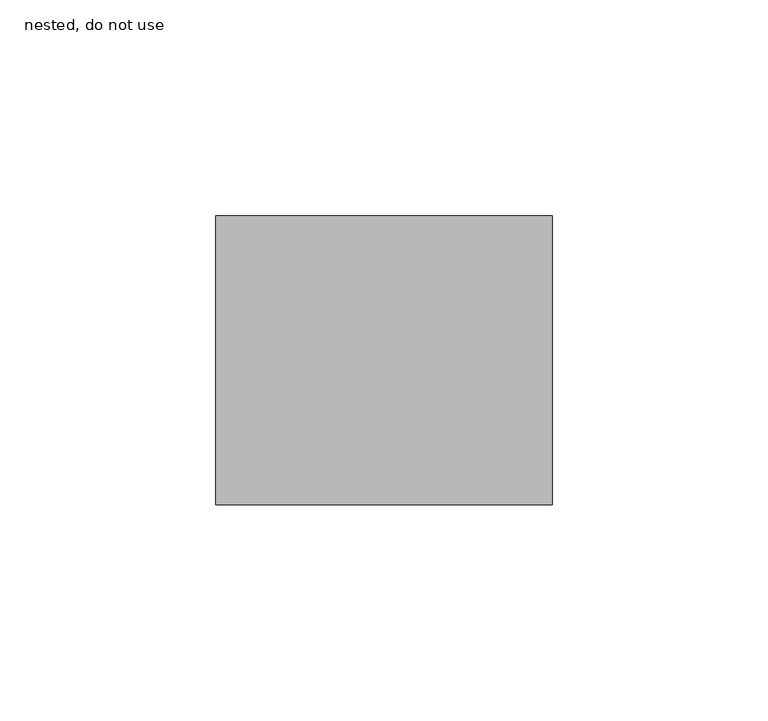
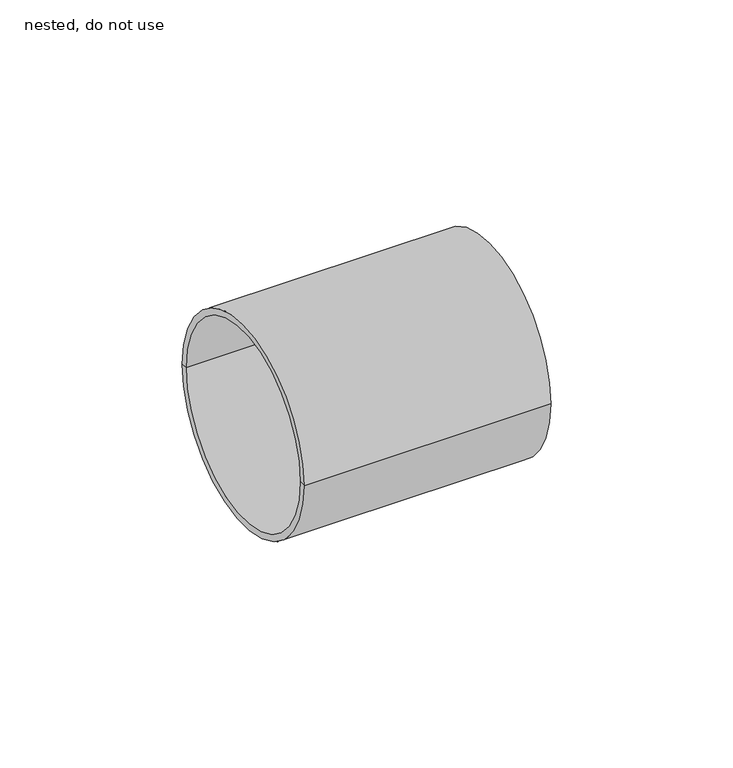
"""IFC4 building model written with IfcOpenShell, lengths in millimetres: pipe fitting geometry, NLRS_52_PIF_UN_Vacurain Flex steekmof_SH_Dyka : nested, do not use."""

from ifc_helpers import new_model, si_unit, frame, origin, place, context, project, spatial, polyline, circle_curve, source, transform, mapped, element, save
from ifc_brep_helpers import plane_surface, cylinder_surface, revolved_surface, advanced_brep


def nested_do_not_use_faedce5e(model_context):
    return source(origin(), model_context, "Body", "AdvancedBrep", [
        advanced_brep(
        [(39.0, -33.5, 0.0), (39.0, 33.5, 0.0), (39.0, 31.5, 0.0), (39.0, -31.5, 0.0), (-39.0, -33.5, 0.0), (-39.0, 33.5, 0.0), (-39.0, -31.5, 0.0), (-39.0, 31.5, 0.0), (-1.0, -31.5, 0.0), (-1.0, 31.5, 0.0), (-1.0, 0.0, 0.0), (1.0, -31.5, 0.0), (1.0, 31.5, 0.0), (1.0, 0.0, 0.0)],
        [
            (0, 1, circle_curve(frame((39.0, 0.0, 0.0), z_axis=(1.0, 0.0, 0.0), x_axis=(0.0, 1.0, 0.0)), 33.5)),
            (1, 2),
            (2, 3, circle_curve(frame((39.0, 0.0, 0.0), z_axis=(-1.0, 0.0, 0.0), x_axis=(0.0, 1.0, 0.0)), 31.5)),
            (3, 0),
            (1, 0, circle_curve(frame((39.0, 0.0, 0.0), z_axis=(1.0, 0.0, 0.0), x_axis=(0.0, 1.0, 0.0)), 33.5)),
            (3, 2, circle_curve(frame((39.0, 0.0, 0.0), z_axis=(-1.0, 0.0, 0.0), x_axis=(0.0, 1.0, 0.0)), 31.5)),
            (4, 5, circle_curve(frame((-39.0, 0.0, 0.0), z_axis=(1.0, 0.0, 0.0), x_axis=(0.0, 1.0, 0.0)), 33.5)),
            (5, 1),
            (0, 4),
            (5, 4, circle_curve(frame((-39.0, 0.0, 0.0), z_axis=(1.0, 0.0, 0.0), x_axis=(0.0, 1.0, 0.0)), 33.5)),
            (6, 7, circle_curve(frame((-39.0, 0.0, 0.0), z_axis=(1.0, 0.0, 0.0), x_axis=(0.0, 1.0, 0.0)), 31.5)),
            (7, 5),
            (4, 6),
            (7, 6, circle_curve(frame((-39.0, 0.0, 0.0), z_axis=(1.0, 0.0, 0.0), x_axis=(0.0, 1.0, 0.0)), 31.5)),
            (8, 9, circle_curve(frame((-1.0, 0.0, 0.0), z_axis=(1.0, 0.0, 0.0), x_axis=(0.0, 1.0, 0.0)), 31.5)),
            (9, 7),
            (6, 8),
            (9, 8, circle_curve(frame((-1.0, 0.0, 0.0), z_axis=(1.0, 0.0, 0.0), x_axis=(0.0, 1.0, 0.0)), 31.5)),
            (10, 9),
            (8, 10),
            (11, 12, circle_curve(frame((1.0, 0.0, 0.0), z_axis=(1.0, 0.0, 0.0), x_axis=(0.0, 1.0, 0.0)), 31.5)),
            (12, 13),
            (13, 11),
            (12, 11, circle_curve(frame((1.0, 0.0, 0.0), z_axis=(1.0, 0.0, 0.0), x_axis=(0.0, 1.0, 0.0)), 31.5)),
            (2, 12),
            (11, 3),
        ],
        [
            plane_surface(frame((39.0, 0.0, 0.0), z_axis=(1.0, 0.0, 0.0), x_axis=(0.0, 1.0, 0.0))),
            cylinder_surface(frame((-45.9, 0.0, 0.0), z_axis=(-1.0, 0.0, 0.0), x_axis=(0.0, 1.0, 0.0)), 33.5),
            plane_surface(frame((-39.0, 0.0, 0.0), z_axis=(-1.0, 0.0, 0.0), x_axis=(0.0, 1.0, 0.0))),
            revolved_surface(polyline([(-39.0, 31.5, 0.0), (-1.0, 31.5, 0.0)]), (-45.9, 0.0, 0.0), (-1.0, 0.0, 0.0)),
            plane_surface(frame((-1.0, 0.0, 0.0), z_axis=(-1.0, 0.0, 0.0), x_axis=(0.0, 1.0, 0.0))),
            plane_surface(frame((1.0, 0.0, 0.0), z_axis=(1.0, 0.0, 0.0), x_axis=(0.0, 1.0, 0.0))),
            revolved_surface(polyline([(1.0, 31.5, 0.0), (39.00000000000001, 31.5, 0.0)]), (-45.9, 0.0, 0.0), (-1.0, 0.0, 0.0)),
        ],
        [
            (0, [[1, 2, 3, 4]]),
            (0, [[5, -4, 6, -2]]),
            (1, [[7, 8, -1, 9]]),
            (1, [[10, -9, -5, -8]]),
            (2, [[11, 12, -7, 13]]),
            (2, [[14, -13, -10, -12]]),
            (3, [[15, 16, -11, 17]]),
            (3, [[18, -17, -14, -16]]),
            (4, [[19, -15, 20]]),
            (4, [[-20, -18, -19]]),
            (5, [[21, 22, 23]]),
            (5, [[24, -23, -22]]),
            (6, [[-3, 25, -21, 26]]),
            (6, [[-6, -26, -24, -25]]),
        ],
    ),
    ])


if __name__ == "__main__":
    model = new_model("IFC4")
    model_context = context("Model", 3, world=origin())
    ifc_project = project(units=[si_unit("LENGTHUNIT", "METRE", prefix="MILLI")], contexts=[model_context])
    site = spatial("IfcSite", under=ifc_project)
    building = spatial("IfcBuilding", under=site)
    placement = place(None, origin())
    nested_do_not_use_shape = nested_do_not_use_faedce5e(model_context)
    element("IfcPipeFitting", 1, ObjectType="NLRS_52_PIF_UN_Vacurain Flex steekmof_SH_Dyka : nested, do not use", at=placement, inside=building, context=model_context, shape_type="MappedRepresentation", body=[
        mapped(nested_do_not_use_shape, transform((0.0, 0.0, 0.0), x_axis=(1.0, 0.0, 0.0), y_axis=(0.0, 1.0, 0.0), z_axis=(0.0, 0.0, 1.0))),
    ])
    save(model, "model.ifc")
